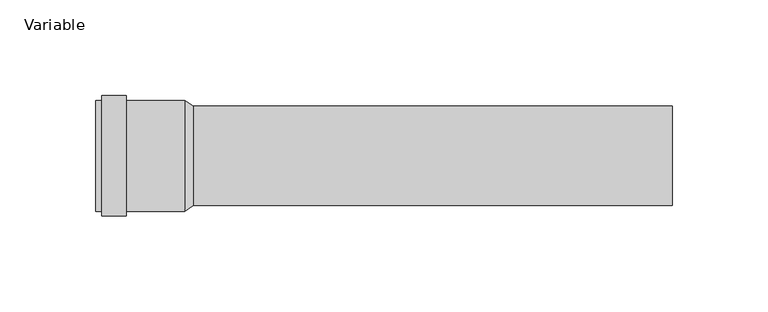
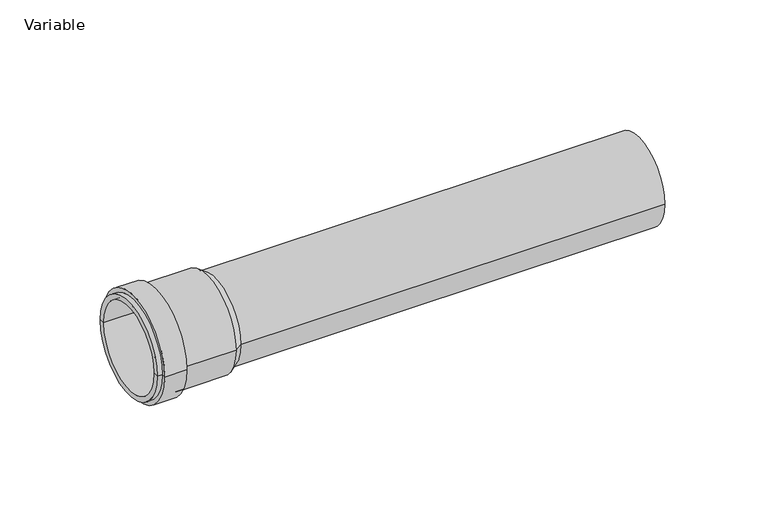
"""IFC4 building model written with IfcOpenShell, lengths in millimetres: pipe fitting geometry, AliaxisFR_Friaphon_LongCoupling_FR : Variable."""

from ifc_helpers import new_model, si_unit, point, frame, origin, origin_2d, place, context, project, spatial, polyline, circle_curve, trimmed, segment, composite_curve, outline, extrude, source, transform, mapped, element, save
from ifc_brep_helpers import plane_surface, cylinder_surface, revolved_surface, advanced_brep


def variable_a751bd8a(model_context):
    return source(origin(), model_context, "Body", "SolidModel", [
        advanced_brep(
        [(-174.5, 29.0, 0.0), (-174.5, -29.0, 0.0), (-174.5, -26.0, 0.0), (-174.5, 26.0, 0.0), (-158.5, 31.5, 0.0), (-158.5, -31.5, 0.0), (-171.5, -31.5, 0.0), (-171.5, 31.5, 0.0), (-158.5, 29.0, 0.0), (-158.5, -29.0, 0.0), (-128.0, 29.0, 0.0), (-128.0, -29.0, 0.0), (-123.5, -26.0, 0.0), (-123.5, 26.0, 0.0), (-171.5, 29.0, 0.0), (-171.5, -29.0, 0.0)],
        [
            (0, 1, circle_curve(frame((-174.5, 0.0, 0.0), z_axis=(-1.0, 0.0, 0.0), x_axis=(0.0, -1.0, 0.0)), 29.0)),
            (1, 2),
            (2, 3, circle_curve(frame((-174.5, 0.0, 0.0), z_axis=(1.0, 0.0, 0.0), x_axis=(0.0, -1.0, 0.0)), 26.0)),
            (3, 0),
            (1, 0, circle_curve(frame((-174.5, 0.0, 0.0), z_axis=(-1.0, 0.0, 0.0), x_axis=(0.0, -1.0, 0.0)), 29.0)),
            (3, 2, circle_curve(frame((-174.5, 0.0, 0.0), z_axis=(1.0, 0.0, 0.0), x_axis=(0.0, -1.0, 0.0)), 26.0)),
            (4, 5, circle_curve(frame((-158.5, 0.0, 0.0), z_axis=(-1.0, 0.0, 0.0), x_axis=(0.0, -1.0, 0.0)), 31.5)),
            (5, 6),
            (6, 7, circle_curve(frame((-171.5, 0.0, 0.0), z_axis=(1.0, 0.0, 0.0), x_axis=(0.0, -1.0, 0.0)), 31.5)),
            (7, 4),
            (5, 4, circle_curve(frame((-158.5, 0.0, 0.0), z_axis=(-1.0, 0.0, 0.0), x_axis=(0.0, -1.0, 0.0)), 31.5)),
            (7, 6, circle_curve(frame((-171.5, 0.0, 0.0), z_axis=(1.0, 0.0, 0.0), x_axis=(0.0, -1.0, 0.0)), 31.5)),
            (8, 9, circle_curve(frame((-158.5, 0.0, 0.0), z_axis=(-1.0, 0.0, 0.0), x_axis=(0.0, -1.0, 0.0)), 29.0)),
            (9, 5),
            (4, 8),
            (9, 8, circle_curve(frame((-158.5, 0.0, 0.0), z_axis=(-1.0, 0.0, 0.0), x_axis=(0.0, -1.0, 0.0)), 29.0)),
            (10, 11, circle_curve(frame((-128.0, 0.0, 0.0), z_axis=(-1.0, 0.0, 0.0), x_axis=(0.0, -1.0, 0.0)), 29.0)),
            (11, 9),
            (8, 10),
            (11, 10, circle_curve(frame((-128.0, 0.0, 0.0), z_axis=(-1.0, 0.0, 0.0), x_axis=(0.0, -1.0, 0.0)), 29.0)),
            (2, 12),
            (12, 13, circle_curve(frame((-123.5, 0.0, 0.0), z_axis=(1.0, 0.0, 0.0), x_axis=(0.0, -1.0, 0.0)), 26.0)),
            (13, 3),
            (13, 12, circle_curve(frame((-123.5, 0.0, 0.0), z_axis=(1.0, 0.0, 0.0), x_axis=(0.0, -1.0, 0.0)), 26.0)),
            (12, 11),
            (10, 13),
            (14, 15, circle_curve(frame((-171.5, 0.0, 0.0), z_axis=(-1.0, 0.0, 0.0), x_axis=(0.0, -1.0, 0.0)), 29.0)),
            (15, 1),
            (0, 14),
            (15, 14, circle_curve(frame((-171.5, 0.0, 0.0), z_axis=(-1.0, 0.0, 0.0), x_axis=(0.0, -1.0, 0.0)), 29.0)),
            (6, 15),
            (14, 7),
        ],
        [
            plane_surface(frame((-174.5, 0.0, 0.0), z_axis=(-1.0, 0.0, 0.0), x_axis=(0.0, -1.0, 0.0))),
            cylinder_surface(frame((-123.5, 0.0, 0.0), z_axis=(1.0, 0.0, 0.0), x_axis=(0.0, -1.0, 0.0)), 31.5),
            plane_surface(frame((-158.5, 0.0, 0.0), z_axis=(1.0, 0.0, 0.0), x_axis=(0.0, -1.0, 0.0))),
            cylinder_surface(frame((-123.5, 0.0, 0.0), z_axis=(1.0, 0.0, 0.0), x_axis=(0.0, -1.0, 0.0)), 29.0),
            revolved_surface(polyline([(-123.5, -26.0, 0.0), (-174.5, -26.0, 0.0)]), (-123.5, 0.0, 0.0), (1.0, 0.0, 0.0)),
            revolved_surface(polyline([(-128.0, -29.0, 0.0), (-123.5, -26.0, 0.0)]), (-123.5, 0.0, 0.0), (1.0, 0.0, 0.0)),
            plane_surface(frame((-171.5, 0.0, 0.0), z_axis=(-1.0, 0.0, 0.0), x_axis=(0.0, -1.0, 0.0))),
        ],
        [
            (0, [[1, 2, 3, 4]]),
            (0, [[5, -4, 6, -2]]),
            (1, [[7, 8, 9, 10]]),
            (1, [[11, -10, 12, -8]]),
            (2, [[13, 14, -7, 15]]),
            (2, [[16, -15, -11, -14]]),
            (3, [[17, 18, -13, 19]]),
            (3, [[20, -19, -16, -18]]),
            (4, [[-3, 21, 22, 23]]),
            (4, [[-6, -23, 24, -21]]),
            (5, [[-22, 25, -17, 26]]),
            (5, [[-24, -26, -20, -25]]),
            (3, [[27, 28, -1, 29]]),
            (3, [[30, -29, -5, -28]]),
            (6, [[-9, 31, -27, 32]]),
            (6, [[-12, -32, -30, -31]]),
        ],
    ),
        extrude(outline(composite_curve([segment(trimmed(circle_curve(origin_2d(), 26.0), [point((-26.0, 0.0))], [point((26.0, 0.0))], False, "CARTESIAN"), True, "CONTINUOUS"), segment(trimmed(circle_curve(origin_2d(), 26.0), [point((26.0, 0.0))], [point((-26.0, 0.0))], False, "CARTESIAN"), True, "CONTINUOUS")], self_intersect=False)), frame((-126.5, 0.0, 0.0), z_axis=(1.0, 0.0, 0.0), x_axis=(0.0, 1.0, 0.0)), (0.0, 0.0, 1.0), 253.0),
    ])


if __name__ == "__main__":
    model = new_model("IFC4")
    model_context = context("Model", 3, world=origin())
    ifc_project = project(units=[si_unit("LENGTHUNIT", "METRE", prefix="MILLI")], contexts=[model_context])
    site = spatial("IfcSite", under=ifc_project)
    building = spatial("IfcBuilding", under=site)
    placement = place(None, origin())
    variable_shape = variable_a751bd8a(model_context)
    element("IfcPipeFitting", 1, ObjectType="AliaxisFR_Friaphon_LongCoupling_FR : Variable", at=placement, inside=building, context=model_context, shape_type="MappedRepresentation", body=[
        mapped(variable_shape, transform((0.0, 0.0, 0.0), x_axis=(1.0, 0.0, 0.0), y_axis=(0.0, 1.0, 0.0), z_axis=(0.0, 0.0, 1.0))),
    ])
    save(model, "model.ifc")
